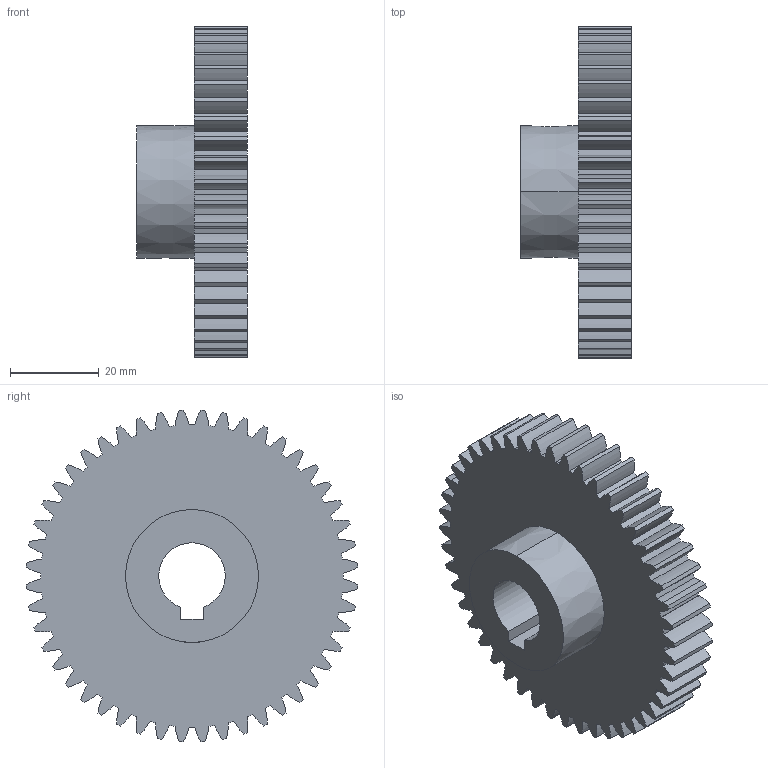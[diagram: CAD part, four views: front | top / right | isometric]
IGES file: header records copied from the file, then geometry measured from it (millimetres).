
Start section: 3D InterOp IGES (v. 2020 1.0.1), Spatial Corp. Copyright (c) 1999-2017.
Global section: file name: p15_w12_t48_bk.igs; native system: Spatial Corp.; preprocessor: 3D InterOp ACIS/IGES; author: TraceParts; organization: TraceParts S.A.; date: 20220624.034342; units: millimetre
Bounding box: 25 x 74.9 x 74.9 mm (x, y, z)
Surface area: 15647.4 mm2 (no closed solid volume)
Topology: 0 solids, 0 shells, 222 faces, 1304 edges, 1304 vertices
Faces by surface type: revolution 208, extrusion 14
